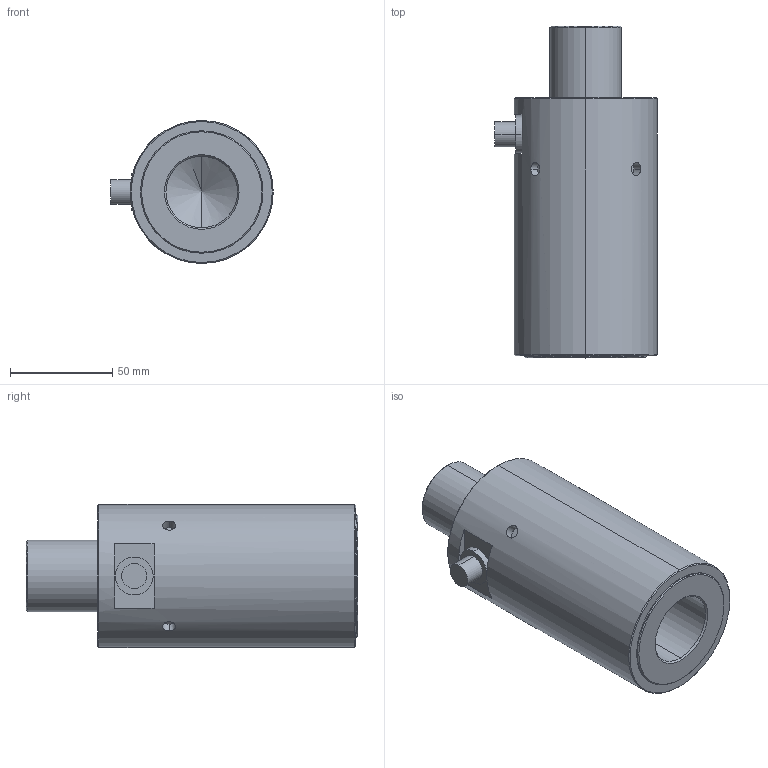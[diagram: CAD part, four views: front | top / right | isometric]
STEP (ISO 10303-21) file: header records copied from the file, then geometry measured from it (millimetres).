
FILE_DESCRIPTION (( 'STEP AP214' ), '1' );
FILE_NAME ('SS1400-300KN.STEP', '2024-08-30T14:26:47', ( '' ), ( '' ), 'SwSTEP 2.0', 'SolidWorks 2008', '' );
FILE_SCHEMA (( 'AUTOMOTIVE_DESIGN' ));
Length unit declared in the file: inch
Products named in the file (1): SS1400-300KN
Bounding box: 79.38 x 162.05 x 69.85 mm (x, y, z)
Volume: 442572.4 mm3; surface area: 48686.9 mm2
Topology: 1 solids, 1 shells, 45 faces, 90 edges, 55 vertices
Faces by surface type: cylinder 20, plane 13, cone 12
Entity records: 1425 total; most frequent: CARTESIAN_POINT 445, DIRECTION 216, ORIENTED_EDGE 176, AXIS2_PLACEMENT_3D 90, EDGE_CURVE 88, VERTEX_POINT 55, EDGE_LOOP 55, ADVANCED_FACE 45
